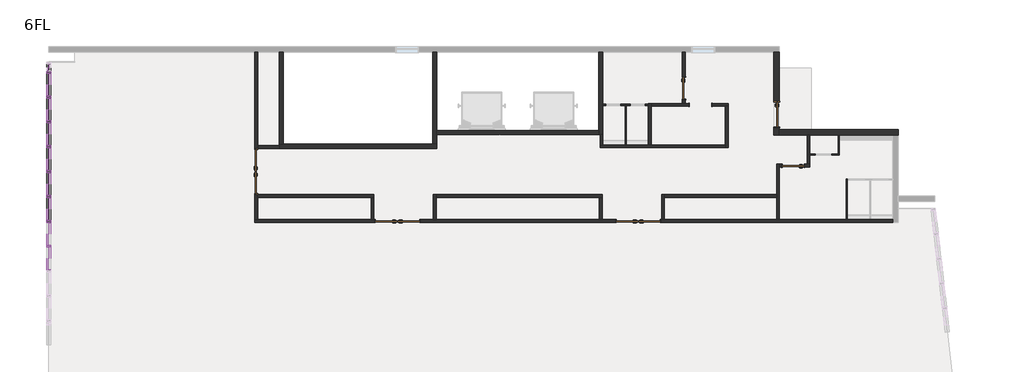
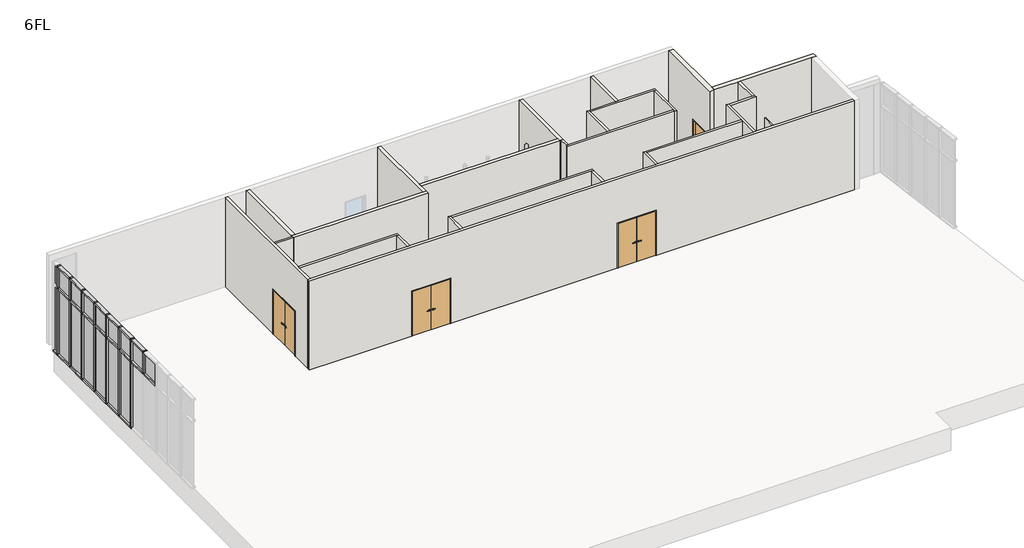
# One storey, part 3 of 4: 37 members, 31 walls, 16 plates, 7 doors.
"""IFC4 building model written with IfcOpenShell, lengths in millimetres."""

from ifc_helpers import new_model, si_unit, frame, origin, place, context, project, spatial, polyline, outline, extrude, faceted_brep, transform, mapped, element, save
from components import door_1de376c6, w800h2000_3f366617, w800h2000_fc627520, w800h2000_d76b1b72, w900h2000_8d150256, member_70x150_cdd4dcf9, member_70x150_66cf63de, member_70x150_26475b18, member_70x150_ad4265bc, member_70x150_a15bb337, plate_28587fd3, plate_396bcf3c, plate_4066ba05, plate_ba683b9a

model = new_model("IFC4")

# Units and contexts
model_context = context("Model", 3, world=origin())
ifc_project = project(units=[si_unit("LENGTHUNIT", "METRE", prefix="MILLI")], contexts=[model_context])

# Site, building, storey
site = spatial("IfcSite", under=ifc_project)
building = spatial("IfcBuilding", under=site)
storey = spatial("IfcBuildingStorey", under=building, Name="6FL", Elevation=20600.0)

# Doors
placement = place(None, origin())
door_shape = door_1de376c6(model_context)
element("IfcDoor", 1, ObjectType="両開き戸 : 両開き：w1600h2000", at=placement, inside=storey, context=model_context, shape_type="MappedRepresentation", body=[
    mapped(door_shape, transform((-21845.9784025, 12245.6585069, 20600.0), x_axis=(0.0, 1.0, 0.0), y_axis=(-1.0, 0.0, 0.0), z_axis=(0.0, 0.0, 1.0))),
])
element("IfcDoor", 2, ObjectType="両開き戸 : 両開き：w1600h2000", at=placement, inside=storey, context=model_context, shape_type="MappedRepresentation", body=[
    mapped(door_shape, transform((-16754.4500107, 10449.6868987, 20600.0), x_axis=(-1.0, 0.0, 0.0), y_axis=(0.0, -1.0, 0.0), z_axis=(0.0, 0.0, 1.0))),
])
element("IfcDoor", 3, ObjectType="両開き戸 : 両開き：w1600h2000", at=placement, inside=storey, context=model_context, shape_type="MappedRepresentation", body=[
    mapped(door_shape, transform((-8054.4500107, 10449.6868987, 20600.0), x_axis=(-1.0, 0.0, 0.0), y_axis=(0.0, -1.0, 0.0), z_axis=(0.0, 0.0, 1.0))),
])
w800h2000_shape = w800h2000_3f366617(model_context)
element("IfcDoor", 4, ObjectType="片開き戸 : w800h2000", at=placement, inside=storey, context=model_context, shape_type="MappedRepresentation", body=[
    mapped(w800h2000_shape, transform((-2445.9784025, 12449.6868987, 20600.0), x_axis=(-1.0, 0.0, 0.0), y_axis=(0.0, -1.0, 0.0), z_axis=(0.0, 0.0, 1.0))),
])
w800h2000_2_shape = w800h2000_fc627520(model_context)
element("IfcDoor", 5, ObjectType="片開き戸 : w800h2000", at=placement, inside=storey, context=model_context, shape_type="MappedRepresentation", body=[
    mapped(w800h2000_2_shape, transform((-6395.9784025, 15249.6868987, 20600.0), x_axis=(0.0, -1.0, 0.0), y_axis=(1.0, 0.0, 0.0), z_axis=(0.0, 0.0, 1.0))),
])
w800h2000_3_shape = w800h2000_d76b1b72(model_context)
element("IfcDoor", 6, ObjectType="開口枠あり : w800h2000", at=placement, inside=storey, context=model_context, shape_type="MappedRepresentation", body=[
    mapped(w800h2000_3_shape, transform((-5795.9784025, 14649.6868987, 20600.0), x_axis=(-1.0, 0.0, 0.0), y_axis=(0.0, -1.0, 0.0), z_axis=(0.0, 0.0, 1.0))),
])
w900h2000_shape = w900h2000_8d150256(model_context)
element("IfcDoor", 7, ObjectType="片開き戸 : w900h2000", at=placement, inside=storey, context=model_context, shape_type="MappedRepresentation", body=[
    mapped(w900h2000_shape, transform((-3045.9784025, 14299.6868987, 20600.0), x_axis=(0.0, -1.0, 0.0), y_axis=(1.0, 0.0, 0.0), z_axis=(0.0, 0.0, 1.0))),
])

# Members
member_70x150_shape = member_70x150_cdd4dcf9(model_context)
element("IfcMember", 8, ObjectType="長方形のマリオン : 70x150", at=placement, inside=storey, context=model_context, shape_type="MappedRepresentation", body=[
    mapped(member_70x150_shape, transform((-29345.9784025, 15834.6868987, 20600.0), x_axis=(0.0, 1.0, 0.0), y_axis=(1.0, 0.0, 0.0), z_axis=(0.0, 0.0, -1.0))),
])
element("IfcMember", 9, ObjectType="長方形のマリオン : 70x150", at=placement, inside=storey, context=model_context, shape_type="MappedRepresentation", body=[
    mapped(member_70x150_shape, transform((-29345.9784025, 14934.6868987, 20600.0), x_axis=(0.0, 1.0, 0.0), y_axis=(1.0, 0.0, 0.0), z_axis=(0.0, 0.0, -1.0))),
])
element("IfcMember", 10, ObjectType="長方形のマリオン : 70x150", at=placement, inside=storey, context=model_context, shape_type="MappedRepresentation", body=[
    mapped(member_70x150_shape, transform((-29345.9784025, 14034.6868987, 20600.0), x_axis=(0.0, 1.0, 0.0), y_axis=(1.0, 0.0, 0.0), z_axis=(0.0, 0.0, -1.0))),
])
element("IfcMember", 11, ObjectType="長方形のマリオン : 70x150", at=placement, inside=storey, context=model_context, shape_type="MappedRepresentation", body=[
    mapped(member_70x150_shape, transform((-29345.9784025, 13134.6868987, 20600.0), x_axis=(0.0, 1.0, 0.0), y_axis=(1.0, 0.0, 0.0), z_axis=(0.0, 0.0, -1.0))),
])
element("IfcMember", 12, ObjectType="長方形のマリオン : 70x150", at=placement, inside=storey, context=model_context, shape_type="MappedRepresentation", body=[
    mapped(member_70x150_shape, transform((-29345.9784025, 12234.6868987, 20600.0), x_axis=(0.0, 1.0, 0.0), y_axis=(1.0, 0.0, 0.0), z_axis=(0.0, 0.0, -1.0))),
])
element("IfcMember", 13, ObjectType="長方形のマリオン : 70x150", at=placement, inside=storey, context=model_context, shape_type="MappedRepresentation", body=[
    mapped(member_70x150_shape, transform((-29345.9784025, 11334.6868987, 20600.0), x_axis=(0.0, 1.0, 0.0), y_axis=(1.0, 0.0, 0.0), z_axis=(0.0, 0.0, -1.0))),
])
element("IfcMember", 14, ObjectType="長方形のマリオン : 70x150", at=placement, inside=storey, context=model_context, shape_type="MappedRepresentation", body=[
    mapped(member_70x150_shape, transform((-29345.9784025, 10434.6868987, 20600.0), x_axis=(0.0, 1.0, 0.0), y_axis=(1.0, 0.0, 0.0), z_axis=(0.0, 0.0, -1.0))),
])
member_70x150_2_shape = member_70x150_66cf63de(model_context)
element("IfcMember", 15, ObjectType="長方形のマリオン : 70x150", at=placement, inside=storey, context=model_context, shape_type="MappedRepresentation", body=[
    mapped(member_70x150_2_shape, transform((-29345.9784025, 14969.6868987, 20600.0), x_axis=(0.0, 0.0, -1.0), y_axis=(1.0, 0.0, 0.0), z_axis=(0.0, -1.0, 0.0))),
])
element("IfcMember", 16, ObjectType="長方形のマリオン : 70x150", at=placement, inside=storey, context=model_context, shape_type="MappedRepresentation", body=[
    mapped(member_70x150_2_shape, transform((-29345.9784025, 14069.6868987, 20600.0), x_axis=(0.0, 0.0, -1.0), y_axis=(1.0, 0.0, 0.0), z_axis=(0.0, -1.0, 0.0))),
])
element("IfcMember", 17, ObjectType="長方形のマリオン : 70x150", at=placement, inside=storey, context=model_context, shape_type="MappedRepresentation", body=[
    mapped(member_70x150_2_shape, transform((-29345.9784025, 13169.6868987, 20600.0), x_axis=(0.0, 0.0, -1.0), y_axis=(1.0, 0.0, 0.0), z_axis=(0.0, -1.0, 0.0))),
])
element("IfcMember", 18, ObjectType="長方形のマリオン : 70x150", at=placement, inside=storey, context=model_context, shape_type="MappedRepresentation", body=[
    mapped(member_70x150_2_shape, transform((-29345.9784025, 12269.6868987, 20600.0), x_axis=(0.0, 0.0, -1.0), y_axis=(1.0, 0.0, 0.0), z_axis=(0.0, -1.0, 0.0))),
])
element("IfcMember", 19, ObjectType="長方形のマリオン : 70x150", at=placement, inside=storey, context=model_context, shape_type="MappedRepresentation", body=[
    mapped(member_70x150_2_shape, transform((-29345.9784025, 11369.6868987, 20600.0), x_axis=(0.0, 0.0, -1.0), y_axis=(1.0, 0.0, 0.0), z_axis=(0.0, -1.0, 0.0))),
])
element("IfcMember", 20, ObjectType="長方形のマリオン : 70x150", at=placement, inside=storey, context=model_context, shape_type="MappedRepresentation", body=[
    mapped(member_70x150_2_shape, transform((-29345.9784025, 10469.6868987, 20600.0), x_axis=(0.0, 0.0, -1.0), y_axis=(1.0, 0.0, 0.0), z_axis=(0.0, -1.0, 0.0))),
])
element("IfcMember", 21, ObjectType="長方形のマリオン : 70x150", at=placement, inside=storey, context=model_context, shape_type="MappedRepresentation", body=[
    mapped(member_70x150_2_shape, transform((-29345.9784025, 15799.6868987, 24600.0), x_axis=(0.0, 0.0, 1.0), y_axis=(1.0, 0.0, 0.0), z_axis=(0.0, 1.0, 0.0))),
])
element("IfcMember", 22, ObjectType="長方形のマリオン : 70x150", at=placement, inside=storey, context=model_context, shape_type="MappedRepresentation", body=[
    mapped(member_70x150_2_shape, transform((-29345.9784025, 14899.6868987, 24600.0), x_axis=(0.0, 0.0, 1.0), y_axis=(1.0, 0.0, 0.0), z_axis=(0.0, 1.0, 0.0))),
])
element("IfcMember", 23, ObjectType="長方形のマリオン : 70x150", at=placement, inside=storey, context=model_context, shape_type="MappedRepresentation", body=[
    mapped(member_70x150_2_shape, transform((-29345.9784025, 13999.6868987, 24600.0), x_axis=(0.0, 0.0, 1.0), y_axis=(1.0, 0.0, 0.0), z_axis=(0.0, 1.0, 0.0))),
])
element("IfcMember", 24, ObjectType="長方形のマリオン : 70x150", at=placement, inside=storey, context=model_context, shape_type="MappedRepresentation", body=[
    mapped(member_70x150_2_shape, transform((-29345.9784025, 13099.6868987, 24600.0), x_axis=(0.0, 0.0, 1.0), y_axis=(1.0, 0.0, 0.0), z_axis=(0.0, 1.0, 0.0))),
])
element("IfcMember", 25, ObjectType="長方形のマリオン : 70x150", at=placement, inside=storey, context=model_context, shape_type="MappedRepresentation", body=[
    mapped(member_70x150_2_shape, transform((-29345.9784025, 12199.6868987, 24600.0), x_axis=(0.0, 0.0, 1.0), y_axis=(1.0, 0.0, 0.0), z_axis=(0.0, 1.0, 0.0))),
])
element("IfcMember", 26, ObjectType="長方形のマリオン : 70x150", at=placement, inside=storey, context=model_context, shape_type="MappedRepresentation", body=[
    mapped(member_70x150_2_shape, transform((-29345.9784025, 11299.6868987, 24600.0), x_axis=(0.0, 0.0, 1.0), y_axis=(1.0, 0.0, 0.0), z_axis=(0.0, 1.0, 0.0))),
])
element("IfcMember", 27, ObjectType="長方形のマリオン : 70x150", at=placement, inside=storey, context=model_context, shape_type="MappedRepresentation", body=[
    mapped(member_70x150_2_shape, transform((-29345.9784025, 10399.6868987, 24600.0), x_axis=(0.0, 0.0, 1.0), y_axis=(1.0, 0.0, 0.0), z_axis=(0.0, 1.0, 0.0))),
])
member_70x150_3_shape = member_70x150_26475b18(model_context)
element("IfcMember", 28, ObjectType="長方形のマリオン : 70x150", at=placement, inside=storey, context=model_context, shape_type="MappedRepresentation", body=[
    mapped(member_70x150_3_shape, transform((-29345.9784025, 15834.6868987, 23600.0), x_axis=(0.0, 1.0, 0.0), y_axis=(1.0, 0.0, 0.0), z_axis=(0.0, 0.0, -1.0))),
])
element("IfcMember", 29, ObjectType="長方形のマリオン : 70x150", at=placement, inside=storey, context=model_context, shape_type="MappedRepresentation", body=[
    mapped(member_70x150_3_shape, transform((-29345.9784025, 14934.6868987, 23600.0), x_axis=(0.0, 1.0, 0.0), y_axis=(1.0, 0.0, 0.0), z_axis=(0.0, 0.0, -1.0))),
])
element("IfcMember", 30, ObjectType="長方形のマリオン : 70x150", at=placement, inside=storey, context=model_context, shape_type="MappedRepresentation", body=[
    mapped(member_70x150_3_shape, transform((-29345.9784025, 14034.6868987, 23600.0), x_axis=(0.0, 1.0, 0.0), y_axis=(1.0, 0.0, 0.0), z_axis=(0.0, 0.0, -1.0))),
])
element("IfcMember", 31, ObjectType="長方形のマリオン : 70x150", at=placement, inside=storey, context=model_context, shape_type="MappedRepresentation", body=[
    mapped(member_70x150_3_shape, transform((-29345.9784025, 13134.6868987, 23600.0), x_axis=(0.0, 1.0, 0.0), y_axis=(1.0, 0.0, 0.0), z_axis=(0.0, 0.0, -1.0))),
])
element("IfcMember", 32, ObjectType="長方形のマリオン : 70x150", at=placement, inside=storey, context=model_context, shape_type="MappedRepresentation", body=[
    mapped(member_70x150_3_shape, transform((-29345.9784025, 12234.6868987, 23600.0), x_axis=(0.0, 1.0, 0.0), y_axis=(1.0, 0.0, 0.0), z_axis=(0.0, 0.0, -1.0))),
])
element("IfcMember", 33, ObjectType="長方形のマリオン : 70x150", at=placement, inside=storey, context=model_context, shape_type="MappedRepresentation", body=[
    mapped(member_70x150_3_shape, transform((-29345.9784025, 11334.6868987, 23600.0), x_axis=(0.0, 1.0, 0.0), y_axis=(1.0, 0.0, 0.0), z_axis=(0.0, 0.0, -1.0))),
])
element("IfcMember", 34, ObjectType="長方形のマリオン : 70x150", at=placement, inside=storey, context=model_context, shape_type="MappedRepresentation", body=[
    mapped(member_70x150_3_shape, transform((-29345.9784025, 10434.6868987, 23600.0), x_axis=(0.0, 1.0, 0.0), y_axis=(1.0, 0.0, 0.0), z_axis=(0.0, 0.0, -1.0))),
])
element("IfcMember", 35, ObjectType="長方形のマリオン : 70x150", at=placement, inside=storey, context=model_context, shape_type="MappedRepresentation", body=[
    mapped(member_70x150_3_shape, transform((-29345.9784025, 9534.6868987, 23600.0), x_axis=(0.0, 1.0, 0.0), y_axis=(1.0, 0.0, 0.0), z_axis=(0.0, 0.0, -1.0))),
])
member_70x150_4_shape = member_70x150_ad4265bc(model_context)
element("IfcMember", 36, ObjectType="長方形のマリオン : 70x150", at=placement, inside=storey, context=model_context, shape_type="MappedRepresentation", body=[
    mapped(member_70x150_4_shape, transform((-29345.9784025, 12199.6868987, 23600.0), x_axis=(0.0, 0.0, 1.0), y_axis=(1.0, 0.0, 0.0), z_axis=(0.0, 1.0, 0.0))),
])
element("IfcMember", 37, ObjectType="長方形のマリオン : 70x150", at=placement, inside=storey, context=model_context, shape_type="MappedRepresentation", body=[
    mapped(member_70x150_4_shape, transform((-29345.9784025, 9499.6868987, 23600.0), x_axis=(0.0, 0.0, 1.0), y_axis=(1.0, 0.0, 0.0), z_axis=(0.0, 1.0, 0.0))),
])
element("IfcMember", 38, ObjectType="長方形のマリオン : 70x150", at=placement, inside=storey, context=model_context, shape_type="MappedRepresentation", body=[
    mapped(member_70x150_4_shape, transform((-29345.9784025, 10399.6868987, 23600.0), x_axis=(0.0, 0.0, 1.0), y_axis=(1.0, 0.0, 0.0), z_axis=(0.0, 1.0, 0.0))),
])
element("IfcMember", 39, ObjectType="長方形のマリオン : 70x150", at=placement, inside=storey, context=model_context, shape_type="MappedRepresentation", body=[
    mapped(member_70x150_4_shape, transform((-29345.9784025, 13099.6868987, 23600.0), x_axis=(0.0, 0.0, 1.0), y_axis=(1.0, 0.0, 0.0), z_axis=(0.0, 1.0, 0.0))),
])
element("IfcMember", 40, ObjectType="長方形のマリオン : 70x150", at=placement, inside=storey, context=model_context, shape_type="MappedRepresentation", body=[
    mapped(member_70x150_4_shape, transform((-29345.9784025, 13999.6868987, 23600.0), x_axis=(0.0, 0.0, 1.0), y_axis=(1.0, 0.0, 0.0), z_axis=(0.0, 1.0, 0.0))),
])
element("IfcMember", 41, ObjectType="長方形のマリオン : 70x150", at=placement, inside=storey, context=model_context, shape_type="MappedRepresentation", body=[
    mapped(member_70x150_4_shape, transform((-29345.9784025, 11299.6868987, 23600.0), x_axis=(0.0, 0.0, 1.0), y_axis=(1.0, 0.0, 0.0), z_axis=(0.0, 1.0, 0.0))),
])
element("IfcMember", 42, ObjectType="長方形のマリオン : 70x150", at=placement, inside=storey, context=model_context, shape_type="MappedRepresentation", body=[
    mapped(member_70x150_4_shape, transform((-29345.9784025, 15799.6868987, 23600.0), x_axis=(0.0, 0.0, 1.0), y_axis=(1.0, 0.0, 0.0), z_axis=(0.0, 1.0, 0.0))),
])
element("IfcMember", 43, ObjectType="長方形のマリオン : 70x150", at=placement, inside=storey, context=model_context, shape_type="MappedRepresentation", body=[
    mapped(member_70x150_4_shape, transform((-29345.9784025, 14899.6868987, 23600.0), x_axis=(0.0, 0.0, 1.0), y_axis=(1.0, 0.0, 0.0), z_axis=(0.0, 1.0, 0.0))),
])
member_70x150_5_shape = member_70x150_a15bb337(model_context)
element("IfcMember", 44, ObjectType="長方形のマリオン : 70x150", at=placement, inside=storey, context=model_context, shape_type="MappedRepresentation", body=[
    mapped(member_70x150_5_shape, transform((-29345.9784025, 15869.6868987, 20600.0), x_axis=(0.0, 0.0, -1.0), y_axis=(1.0, 0.0, 0.0), z_axis=(0.0, -1.0, 0.0))),
])

# Plates
plate_shape = plate_28587fd3(model_context)
element("IfcPlate", 45, ObjectType="システム パネル : 標準", at=placement, inside=storey, context=model_context, shape_type="MappedRepresentation", body=[
    mapped(plate_shape, transform((-29345.9784025, 10884.6868987, 20670.0), x_axis=(0.0, 1.0, 0.0), y_axis=(-1.0, 0.0, 0.0), z_axis=(0.0, 0.0, 1.0))),
])
element("IfcPlate", 46, ObjectType="システム パネル : 標準", at=placement, inside=storey, context=model_context, shape_type="MappedRepresentation", body=[
    mapped(plate_shape, transform((-29345.9784025, 11784.6868987, 20670.0), x_axis=(0.0, 1.0, 0.0), y_axis=(-1.0, 0.0, 0.0), z_axis=(0.0, 0.0, 1.0))),
])
element("IfcPlate", 47, ObjectType="システム パネル : 標準", at=placement, inside=storey, context=model_context, shape_type="MappedRepresentation", body=[
    mapped(plate_shape, transform((-29345.9784025, 12684.6868987, 20670.0), x_axis=(0.0, 1.0, 0.0), y_axis=(-1.0, 0.0, 0.0), z_axis=(0.0, 0.0, 1.0))),
])
element("IfcPlate", 48, ObjectType="システム パネル : 標準", at=placement, inside=storey, context=model_context, shape_type="MappedRepresentation", body=[
    mapped(plate_shape, transform((-29345.9784025, 13584.6868987, 20670.0), x_axis=(0.0, 1.0, 0.0), y_axis=(-1.0, 0.0, 0.0), z_axis=(0.0, 0.0, 1.0))),
])
element("IfcPlate", 49, ObjectType="システム パネル : 標準", at=placement, inside=storey, context=model_context, shape_type="MappedRepresentation", body=[
    mapped(plate_shape, transform((-29345.9784025, 14484.6868987, 20670.0), x_axis=(0.0, 1.0, 0.0), y_axis=(-1.0, 0.0, 0.0), z_axis=(0.0, 0.0, 1.0))),
])
element("IfcPlate", 50, ObjectType="システム パネル : 標準", at=placement, inside=storey, context=model_context, shape_type="MappedRepresentation", body=[
    mapped(plate_shape, transform((-29345.9784025, 15384.6868987, 20670.0), x_axis=(0.0, 1.0, 0.0), y_axis=(-1.0, 0.0, 0.0), z_axis=(0.0, 0.0, 1.0))),
])
plate_2_shape = plate_396bcf3c(model_context)
element("IfcPlate", 51, ObjectType="システム パネル : 標準", at=placement, inside=storey, context=model_context, shape_type="MappedRepresentation", body=[
    mapped(plate_2_shape, transform((-29345.9784025, 9084.6868987, 23635.0), x_axis=(0.0, 1.0, 0.0), y_axis=(-1.0, 0.0, 0.0), z_axis=(0.0, 0.0, 1.0))),
])
element("IfcPlate", 52, ObjectType="システム パネル : 標準", at=placement, inside=storey, context=model_context, shape_type="MappedRepresentation", body=[
    mapped(plate_2_shape, transform((-29345.9784025, 9984.6868987, 23635.0), x_axis=(0.0, 1.0, 0.0), y_axis=(-1.0, 0.0, 0.0), z_axis=(0.0, 0.0, 1.0))),
])
element("IfcPlate", 53, ObjectType="システム パネル : 標準", at=placement, inside=storey, context=model_context, shape_type="MappedRepresentation", body=[
    mapped(plate_2_shape, transform((-29345.9784025, 10884.6868987, 23635.0), x_axis=(0.0, 1.0, 0.0), y_axis=(-1.0, 0.0, 0.0), z_axis=(0.0, 0.0, 1.0))),
])
element("IfcPlate", 54, ObjectType="システム パネル : 標準", at=placement, inside=storey, context=model_context, shape_type="MappedRepresentation", body=[
    mapped(plate_2_shape, transform((-29345.9784025, 11784.6868987, 23635.0), x_axis=(0.0, 1.0, 0.0), y_axis=(-1.0, 0.0, 0.0), z_axis=(0.0, 0.0, 1.0))),
])
element("IfcPlate", 55, ObjectType="システム パネル : 標準", at=placement, inside=storey, context=model_context, shape_type="MappedRepresentation", body=[
    mapped(plate_2_shape, transform((-29345.9784025, 12684.6868987, 23635.0), x_axis=(0.0, 1.0, 0.0), y_axis=(-1.0, 0.0, 0.0), z_axis=(0.0, 0.0, 1.0))),
])
element("IfcPlate", 56, ObjectType="システム パネル : 標準", at=placement, inside=storey, context=model_context, shape_type="MappedRepresentation", body=[
    mapped(plate_2_shape, transform((-29345.9784025, 13584.6868987, 23635.0), x_axis=(0.0, 1.0, 0.0), y_axis=(-1.0, 0.0, 0.0), z_axis=(0.0, 0.0, 1.0))),
])
element("IfcPlate", 57, ObjectType="システム パネル : 標準", at=placement, inside=storey, context=model_context, shape_type="MappedRepresentation", body=[
    mapped(plate_2_shape, transform((-29345.9784025, 14484.6868987, 23635.0), x_axis=(0.0, 1.0, 0.0), y_axis=(-1.0, 0.0, 0.0), z_axis=(0.0, 0.0, 1.0))),
])
element("IfcPlate", 58, ObjectType="システム パネル : 標準", at=placement, inside=storey, context=model_context, shape_type="MappedRepresentation", body=[
    mapped(plate_2_shape, transform((-29345.9784025, 15384.6868987, 23635.0), x_axis=(0.0, 1.0, 0.0), y_axis=(-1.0, 0.0, 0.0), z_axis=(0.0, 0.0, 1.0))),
])
plate_3_shape = plate_4066ba05(model_context)
element("IfcPlate", 59, ObjectType="システム パネル : 標準", at=placement, inside=storey, context=model_context, shape_type="MappedRepresentation", body=[
    mapped(plate_3_shape, transform((-29345.9784025, 15999.6868987, 20670.0), x_axis=(0.0, 1.0, 0.0), y_axis=(-1.0, 0.0, 0.0), z_axis=(0.0, 0.0, 1.0))),
])
plate_4_shape = plate_ba683b9a(model_context)
element("IfcPlate", 60, ObjectType="システム パネル : 標準", at=placement, inside=storey, context=model_context, shape_type="MappedRepresentation", body=[
    mapped(plate_4_shape, transform((-29345.9784025, 15999.6868987, 23635.0), x_axis=(0.0, 1.0, 0.0), y_axis=(-1.0, 0.0, 0.0), z_axis=(0.0, 0.0, 1.0))),
])

# Walls
element("IfcWall", 61, ObjectType="標準200", at=placement, inside=storey, context=model_context, shape_type="Brep", body=[
    faceted_brep([(-3145.9784025, 16549.6868987, 20600.0), (-3145.9784025, 14774.6868987, 20600.0), (-3145.9784025, 14774.6868987, 22625.0), (-3145.9784025, 13824.6868987, 22625.0), (-3145.9784025, 13824.6868987, 20600.0), (-3145.9784025, 13549.6868987, 20600.0), (-3145.9784025, 13549.6868987, 24600.0), (-3145.9784025, 16549.6868987, 24600.0), (-2945.9784025, 14774.6868987, 22625.0), (-2945.9784025, 14774.6868987, 20600.0), (-2945.9784025, 16549.6868987, 20600.0), (-2945.9784025, 16549.6868987, 24600.0), (-2945.9784025, 13749.6868987, 24600.0), (-2945.9784025, 13549.6868987, 24600.0), (-2945.9784025, 13549.6868987, 20600.0), (-2945.9784025, 13749.6868987, 20600.0), (-2945.9784025, 13824.6868987, 20600.0), (-2945.9784025, 13824.6868987, 22625.0)], [[[0, 1, 2, 3, 4, 5, 6, 7]], [[8, 9, 10, 11, 12, 13, 14, 15, 16, 17]], [[10, 9, 1, 0]], [[16, 15, 14, 5, 4]], [[7, 6, 13, 12, 11]], [[0, 7, 11, 10]], [[6, 5, 14, 13]], [[4, 3, 17, 16]], [[2, 1, 9, 8]], [[3, 2, 8, 17]]]),
])
element("IfcWall", 62, ObjectType="標準200", at=placement, inside=storey, context=model_context, shape_type="Brep", body=[
    faceted_brep([(-2945.9784025, 13549.6868987, 20600.0), (-1945.9784025, 13549.6868987, 20600.0), (-1845.9784025, 13549.6868987, 20600.0), (-815.9784025, 13549.6868987, 20600.0), (-775.9784025, 13549.6868987, 20600.0), (1154.0215975, 13549.6868987, 20600.0), (1354.0215975, 13549.6868987, 20600.0), (1354.0215975, 13549.6868987, 24600.0), (1154.0215975, 13549.6868987, 24600.0), (-1845.9784025, 13549.6868987, 24600.0), (-1945.9784025, 13549.6868987, 24600.0), (-2945.9784025, 13549.6868987, 24600.0), (-2945.9784025, 13749.6868987, 20600.0), (-2945.9784025, 13749.6868987, 24600.0), (1354.0215975, 13749.6868987, 24600.0), (1354.0215975, 13749.6868987, 20600.0)], [[[0, 1, 2, 3, 4, 5, 6, 7, 8, 9, 10, 11]], [[12, 13, 14, 15]], [[6, 5, 4, 3, 2, 1, 0, 12, 15]], [[11, 10, 9, 8, 7, 14, 13]], [[0, 11, 13, 12]], [[7, 6, 15, 14]]]),
])
element("IfcWall", 63, ObjectType="標準150", at=placement, inside=storey, context=model_context, shape_type="Brep", body=[
    faceted_brep([(-9470.9784025, 16549.6868987, 20600.0), (-9470.9784025, 13724.6868987, 20600.0), (-9470.9784025, 13574.6868987, 20600.0), (-9470.9784025, 13574.6868987, 24600.0), (-9470.9784025, 13724.6868987, 24600.0), (-9470.9784025, 16549.6868987, 24600.0), (-9320.9784025, 16549.6868987, 20600.0), (-9320.9784025, 16549.6868987, 24600.0), (-9320.9784025, 13574.6868987, 24600.0), (-9320.9784025, 13574.6868987, 20600.0), (-9320.9784025, 14629.6868987, 20600.0), (-9320.9784025, 14669.6868987, 20600.0), (-9420.9784025, 13574.6868987, 20600.0), (-9420.9784025, 13574.6868987, 24600.0)], [[[0, 1, 2, 3, 4, 5]], [[6, 7, 8, 9, 10, 11]], [[2, 1, 0, 6, 11, 10, 9, 12]], [[5, 4, 3, 13, 8, 7]], [[0, 5, 7, 6]], [[3, 2, 12, 9, 8, 13]]]),
])
element("IfcWall", 64, ObjectType="標準150", at=placement, inside=storey, context=model_context, shape_type="SweptSolid", body=[
    extrude(outline(polyline([(-15320.9784025, 13724.6868987), (-9470.9784025, 13724.6868987), (-9470.9784025, 13574.6868987), (-15320.9784025, 13574.6868987), (-15320.9784025, 13724.6868987)])), frame((0.0, 0.0, 20600.0), z_axis=(0.0, 0.0, 1.0), x_axis=(1.0, 0.0, 0.0)), (0.0, 0.0, 1.0), 4000.0),
])
element("IfcWall", 65, ObjectType="標準150", at=placement, inside=storey, context=model_context, shape_type="Brep", body=[
    faceted_brep([(-15320.9784025, 13224.6868987, 20600.0), (-15320.9784025, 13574.6868987, 20600.0), (-15320.9784025, 13724.6868987, 20600.0), (-15320.9784025, 16549.6868987, 20600.0), (-15320.9784025, 16549.6868987, 24600.0), (-15320.9784025, 13724.6868987, 24600.0), (-15320.9784025, 13574.6868987, 24600.0), (-15320.9784025, 13224.6868987, 24600.0), (-15470.9784025, 13224.6868987, 20600.0), (-15470.9784025, 13224.6868987, 24600.0), (-15470.9784025, 16549.6868987, 24600.0), (-15470.9784025, 16549.6868987, 20600.0)], [[[0, 1, 2, 3, 4, 5, 6, 7]], [[8, 9, 10, 11]], [[3, 2, 1, 0, 8, 11]], [[7, 6, 5, 4, 10, 9]], [[4, 3, 11, 10]], [[0, 7, 9, 8]]]),
])
element("IfcWall", 66, ObjectType="標準150", at=placement, inside=storey, context=model_context, shape_type="Brep", body=[
    faceted_brep([(-15320.9784025, 13224.6868987, 20600.0), (-15470.9784025, 13224.6868987, 20600.0), (-20870.9784025, 13224.6868987, 20600.0), (-21020.9784025, 13224.6868987, 20600.0), (-21020.9784025, 13224.6868987, 24600.0), (-20870.9784025, 13224.6868987, 24600.0), (-15470.9784025, 13224.6868987, 24600.0), (-15320.9784025, 13224.6868987, 24600.0), (-15320.9784025, 13074.6868987, 20600.0), (-15320.9784025, 13074.6868987, 24600.0), (-21020.9784025, 13074.6868987, 24600.0), (-21020.9784025, 13074.6868987, 20600.0), (-21020.9784025, 13174.6868987, 20600.0), (-21020.9784025, 13174.6868987, 24600.0)], [[[0, 1, 2, 3, 4, 5, 6, 7]], [[8, 9, 10, 11]], [[3, 2, 1, 0, 8, 11, 12]], [[7, 6, 5, 4, 13, 10, 9]], [[4, 3, 12, 11, 10, 13]], [[0, 7, 9, 8]]]),
])
element("IfcWall", 67, ObjectType="標準150", at=placement, inside=storey, context=model_context, shape_type="SweptSolid", body=[
    extrude(outline(polyline([(-20870.9784025, 16549.6868987), (-20870.9784025, 13224.6868987), (-21020.9784025, 13224.6868987), (-21020.9784025, 16549.6868987), (-20870.9784025, 16549.6868987)])), frame((0.0, 0.0, 20600.0), z_axis=(0.0, 0.0, 1.0), x_axis=(1.0, 0.0, 0.0)), (0.0, 0.0, 1.0), 4000.0),
])
element("IfcWall", 68, ObjectType="標準100", at=placement, inside=storey, context=model_context, shape_type="Brep", body=[
    faceted_brep([(1154.0215975, 10499.6868987, 20600.0), (354.0215975, 10499.6868987, 20600.0), (314.0215975, 10499.6868987, 20600.0), (-485.9784025, 10499.6868987, 20600.0), (-525.9784025, 10499.6868987, 20600.0), (-2945.9784025, 10499.6868987, 20600.0), (-3045.9784025, 10499.6868987, 20600.0), (-7095.9784025, 10499.6868987, 20600.0), (-7195.9784025, 10499.6868987, 20600.0), (-7220.9784025, 10499.6868987, 20600.0), (-7220.9784025, 10499.6868987, 22625.0), (-8870.9784025, 10499.6868987, 22625.0), (-8870.9784025, 10499.6868987, 20600.0), (-9345.9784025, 10499.6868987, 20600.0), (-9445.9784025, 10499.6868987, 20600.0), (-15345.9784025, 10499.6868987, 20600.0), (-15445.9784025, 10499.6868987, 20600.0), (-15920.9784025, 10499.6868987, 20600.0), (-15920.9784025, 10499.6868987, 22625.0), (-17570.9784025, 10499.6868987, 22625.0), (-17570.9784025, 10499.6868987, 20600.0), (-17595.9784025, 10499.6868987, 20600.0), (-17695.9784025, 10499.6868987, 20600.0), (-21795.9784025, 10499.6868987, 20600.0), (-21895.9784025, 10499.6868987, 20600.0), (-21895.9784025, 10499.6868987, 24600.0), (-21795.9784025, 10499.6868987, 24600.0), (-17695.9784025, 10499.6868987, 24600.0), (-17595.9784025, 10499.6868987, 24600.0), (-15445.9784025, 10499.6868987, 24600.0), (-15345.9784025, 10499.6868987, 24600.0), (-9445.9784025, 10499.6868987, 24600.0), (-9345.9784025, 10499.6868987, 24600.0), (-7195.9784025, 10499.6868987, 24600.0), (-7095.9784025, 10499.6868987, 24600.0), (-3045.9784025, 10499.6868987, 24600.0), (-2945.9784025, 10499.6868987, 24600.0), (1154.0215975, 10499.6868987, 24600.0), (-7220.9784025, 10399.6868987, 22625.0), (-7220.9784025, 10399.6868987, 20600.0), (1154.0215975, 10399.6868987, 20600.0), (1154.0215975, 10399.6868987, 24600.0), (-21895.9784025, 10399.6868987, 24600.0), (-21895.9784025, 10399.6868987, 20600.0), (-17570.9784025, 10399.6868987, 20600.0), (-17570.9784025, 10399.6868987, 22625.0), (-15920.9784025, 10399.6868987, 22625.0), (-15920.9784025, 10399.6868987, 20600.0), (-8870.9784025, 10399.6868987, 20600.0), (-8870.9784025, 10399.6868987, 22625.0)], [[[0, 1, 2, 3, 4, 5, 6, 7, 8, 9, 10, 11, 12, 13, 14, 15, 16, 17, 18, 19, 20, 21, 22, 23, 24, 25, 26, 27, 28, 29, 30, 31, 32, 33, 34, 35, 36, 37]], [[38, 39, 40, 41, 42, 43, 44, 45, 46, 47, 48, 49]], [[44, 43, 24, 23, 22, 21, 20]], [[48, 47, 17, 16, 15, 14, 13, 12]], [[40, 39, 9, 8, 7, 6, 5, 4, 3, 2, 1, 0]], [[37, 36, 35, 34, 33, 32, 31, 30, 29, 28, 27, 26, 25, 42, 41]], [[25, 24, 43, 42]], [[0, 37, 41, 40]], [[20, 19, 45, 44]], [[18, 17, 47, 46]], [[19, 18, 46, 45]], [[12, 11, 49, 48]], [[10, 9, 39, 38]], [[11, 10, 38, 49]]]),
])
element("IfcWall", 69, ObjectType="標準100", at=placement, inside=storey, context=model_context, shape_type="Brep", body=[
    faceted_brep([(-21795.9784025, 10499.6868987, 20600.0), (-21795.9784025, 11299.6868987, 20600.0), (-21795.9784025, 11399.6868987, 20600.0), (-21795.9784025, 11412.1868987, 20600.0), (-21795.9784025, 11412.1868987, 22625.0), (-21795.9784025, 13062.1868987, 22625.0), (-21795.9784025, 13062.1868987, 20600.0), (-21795.9784025, 13074.6868987, 20600.0), (-21795.9784025, 13174.6868987, 20600.0), (-21795.9784025, 16549.6868987, 20600.0), (-21795.9784025, 16549.6868987, 24600.0), (-21795.9784025, 13174.6868987, 24600.0), (-21795.9784025, 13074.6868987, 24600.0), (-21795.9784025, 11399.6868987, 24600.0), (-21795.9784025, 11299.6868987, 24600.0), (-21795.9784025, 10499.6868987, 24600.0), (-21895.9784025, 11412.1868987, 22625.0), (-21895.9784025, 11412.1868987, 20600.0), (-21895.9784025, 10499.6868987, 20600.0), (-21895.9784025, 10499.6868987, 24600.0), (-21895.9784025, 16549.6868987, 24600.0), (-21895.9784025, 16549.6868987, 20600.0), (-21895.9784025, 13062.1868987, 20600.0), (-21895.9784025, 13062.1868987, 22625.0)], [[[0, 1, 2, 3, 4, 5, 6, 7, 8, 9, 10, 11, 12, 13, 14, 15]], [[16, 17, 18, 19, 20, 21, 22, 23]], [[22, 21, 9, 8, 7, 6]], [[18, 17, 3, 2, 1, 0]], [[15, 14, 13, 12, 11, 10, 20, 19]], [[0, 15, 19, 18]], [[10, 9, 21, 20]], [[6, 5, 23, 22]], [[4, 3, 17, 16]], [[5, 4, 16, 23]]]),
])
element("IfcWall", 70, ObjectType="標準100", at=placement, inside=storey, context=model_context, shape_type="Brep", body=[
    faceted_brep([(-2945.9784025, 10499.6868987, 20600.0), (-2945.9784025, 12399.6868987, 20600.0), (-2945.9784025, 12499.6868987, 20600.0), (-2945.9784025, 12499.6868987, 24600.0), (-2945.9784025, 12399.6868987, 24600.0), (-2945.9784025, 10499.6868987, 24600.0), (-3045.9784025, 10499.6868987, 20600.0), (-3045.9784025, 10499.6868987, 24600.0), (-3045.9784025, 11299.6868987, 24600.0), (-3045.9784025, 11399.6868987, 24600.0), (-3045.9784025, 12499.6868987, 24600.0), (-3045.9784025, 12499.6868987, 20600.0), (-3045.9784025, 11399.6868987, 20600.0), (-3045.9784025, 11299.6868987, 20600.0)], [[[0, 1, 2, 3, 4, 5]], [[6, 7, 8, 9, 10, 11, 12, 13]], [[2, 1, 0, 6, 13, 12, 11]], [[5, 4, 3, 10, 9, 8, 7]], [[0, 5, 7, 6]], [[3, 2, 11, 10]]]),
])
element("IfcWall", 71, ObjectType="標準100", at=placement, inside=storey, context=model_context, shape_type="Brep", body=[
    faceted_brep([(-7095.9784025, 10499.6868987, 20600.0), (-7095.9784025, 11299.6868987, 20600.0), (-7095.9784025, 11399.6868987, 20600.0), (-7095.9784025, 11399.6868987, 24600.0), (-7095.9784025, 11299.6868987, 24600.0), (-7095.9784025, 10499.6868987, 24600.0), (-7195.9784025, 10499.6868987, 20600.0), (-7195.9784025, 10499.6868987, 24600.0), (-7195.9784025, 11399.6868987, 24600.0), (-7195.9784025, 11399.6868987, 20600.0)], [[[0, 1, 2, 3, 4, 5]], [[6, 7, 8, 9]], [[2, 1, 0, 6, 9]], [[5, 4, 3, 8, 7]], [[0, 5, 7, 6]], [[3, 2, 9, 8]]]),
])
element("IfcWall", 72, ObjectType="標準100", at=placement, inside=storey, context=model_context, shape_type="SweptSolid", body=[
    extrude(outline(polyline([(-3045.9784025, 11299.6868987), (-7095.9784025, 11299.6868987), (-7095.9784025, 11399.6868987), (-3045.9784025, 11399.6868987), (-3045.9784025, 11299.6868987)])), frame((0.0, 0.0, 20600.0), z_axis=(0.0, 0.0, 1.0), x_axis=(1.0, 0.0, 0.0)), (0.0, 0.0, 1.0), 4000.0),
])
element("IfcWall", 73, ObjectType="標準100", at=placement, inside=storey, context=model_context, shape_type="Brep", body=[
    faceted_brep([(-15345.9784025, 10499.6868987, 20600.0), (-15345.9784025, 11299.6868987, 20600.0), (-15345.9784025, 11399.6868987, 20600.0), (-15345.9784025, 11399.6868987, 24600.0), (-15345.9784025, 11299.6868987, 24600.0), (-15345.9784025, 10499.6868987, 24600.0), (-15445.9784025, 10499.6868987, 20600.0), (-15445.9784025, 10499.6868987, 24600.0), (-15445.9784025, 11399.6868987, 24600.0), (-15445.9784025, 11399.6868987, 20600.0)], [[[0, 1, 2, 3, 4, 5]], [[6, 7, 8, 9]], [[2, 1, 0, 6, 9]], [[5, 4, 3, 8, 7]], [[0, 5, 7, 6]], [[3, 2, 9, 8]]]),
])
element("IfcWall", 74, ObjectType="標準100", at=placement, inside=storey, context=model_context, shape_type="Brep", body=[
    faceted_brep([(-15345.9784025, 11299.6868987, 20600.0), (-9445.9784025, 11299.6868987, 20600.0), (-9345.9784025, 11299.6868987, 20600.0), (-9345.9784025, 11299.6868987, 24600.0), (-9445.9784025, 11299.6868987, 24600.0), (-15345.9784025, 11299.6868987, 24600.0), (-15345.9784025, 11399.6868987, 20600.0), (-15345.9784025, 11399.6868987, 24600.0), (-9345.9784025, 11399.6868987, 24600.0), (-9345.9784025, 11399.6868987, 20600.0)], [[[0, 1, 2, 3, 4, 5]], [[6, 7, 8, 9]], [[2, 1, 0, 6, 9]], [[5, 4, 3, 8, 7]], [[0, 5, 7, 6]], [[3, 2, 9, 8]]]),
])
element("IfcWall", 75, ObjectType="標準100", at=placement, inside=storey, context=model_context, shape_type="SweptSolid", body=[
    extrude(outline(polyline([(-9445.9784025, 10499.6868987), (-9445.9784025, 11299.6868987), (-9345.9784025, 11299.6868987), (-9345.9784025, 10499.6868987), (-9445.9784025, 10499.6868987)])), frame((0.0, 0.0, 20600.0), z_axis=(0.0, 0.0, 1.0), x_axis=(1.0, 0.0, 0.0)), (0.0, 0.0, 1.0), 4000.0),
])
element("IfcWall", 76, ObjectType="標準100", at=placement, inside=storey, context=model_context, shape_type="Brep", body=[
    faceted_brep([(-21795.9784025, 11299.6868987, 20600.0), (-17695.9784025, 11299.6868987, 20600.0), (-17595.9784025, 11299.6868987, 20600.0), (-17595.9784025, 11299.6868987, 24600.0), (-17695.9784025, 11299.6868987, 24600.0), (-21795.9784025, 11299.6868987, 24600.0), (-21795.9784025, 11399.6868987, 20600.0), (-21795.9784025, 11399.6868987, 24600.0), (-17595.9784025, 11399.6868987, 24600.0), (-17595.9784025, 11399.6868987, 20600.0)], [[[0, 1, 2, 3, 4, 5]], [[6, 7, 8, 9]], [[2, 1, 0, 6, 9]], [[5, 4, 3, 8, 7]], [[0, 5, 7, 6]], [[3, 2, 9, 8]]]),
])
element("IfcWall", 77, ObjectType="標準100", at=placement, inside=storey, context=model_context, shape_type="SweptSolid", body=[
    extrude(outline(polyline([(-17695.9784025, 10499.6868987), (-17695.9784025, 11299.6868987), (-17595.9784025, 11299.6868987), (-17595.9784025, 10499.6868987), (-17695.9784025, 10499.6868987)])), frame((0.0, 0.0, 20600.0), z_axis=(0.0, 0.0, 1.0), x_axis=(1.0, 0.0, 0.0)), (0.0, 0.0, 1.0), 4000.0),
])
element("IfcWall", 78, ObjectType="標準100", at=placement, inside=storey, context=model_context, shape_type="SweptSolid", body=[
    extrude(outline(polyline([(-21020.9784025, 13074.6868987), (-21795.9784025, 13074.6868987), (-21795.9784025, 13174.6868987), (-21020.9784025, 13174.6868987), (-21020.9784025, 13074.6868987)])), frame((0.0, 0.0, 20600.0), z_axis=(0.0, 0.0, 1.0), x_axis=(1.0, 0.0, 0.0)), (0.0, 0.0, 1.0), 4000.0),
])
element("IfcWall", 79, ObjectType="標準100", at=placement, inside=storey, context=model_context, shape_type="SweptSolid", body=[
    extrude(outline(polyline([(16549.6868987, 20600.0), (15674.6868987, 20600.0), (15674.6868987, 22625.0), (14824.6868987, 22625.0), (14824.6868987, 20600.0), (14699.6868987, 20600.0), (14699.6868987, 24600.0), (16549.6868987, 24600.0), (16549.6868987, 20600.0)])), frame((-6445.9784025, 0.0, 0.0), z_axis=(1.0, 0.0, 0.0), x_axis=(0.0, 1.0, 0.0)), (0.0, 0.0, 1.0), 100.0),
])
element("IfcWall", 80, ObjectType="標準100", at=placement, inside=storey, context=model_context, shape_type="Brep", body=[
    faceted_brep([(-4895.9784025, 13199.6868987, 20600.0), (-7580.9784025, 13199.6868987, 20600.0), (-7680.9784025, 13199.6868987, 20600.0), (-8480.9784025, 13199.6868987, 20600.0), (-8520.9784025, 13199.6868987, 20600.0), (-9320.9784025, 13199.6868987, 20600.0), (-9420.9784025, 13199.6868987, 20600.0), (-9420.9784025, 13199.6868987, 24600.0), (-9320.9784025, 13199.6868987, 24600.0), (-7680.9784025, 13199.6868987, 24600.0), (-7580.9784025, 13199.6868987, 24600.0), (-4895.9784025, 13199.6868987, 24600.0), (-4895.9784025, 13099.6868987, 20600.0), (-4895.9784025, 13099.6868987, 24600.0), (-9420.9784025, 13099.6868987, 24600.0), (-9420.9784025, 13099.6868987, 20600.0)], [[[0, 1, 2, 3, 4, 5, 6, 7, 8, 9, 10, 11]], [[12, 13, 14, 15]], [[6, 5, 4, 3, 2, 1, 0, 12, 15]], [[11, 10, 9, 8, 7, 14, 13]], [[0, 11, 13, 12]], [[7, 6, 15, 14]]]),
])
element("IfcWall", 81, ObjectType="標準100", at=placement, inside=storey, context=model_context, shape_type="SweptSolid", body=[
    extrude(outline(polyline([(-9320.9784025, 13574.6868987), (-9320.9784025, 13199.6868987), (-9420.9784025, 13199.6868987), (-9420.9784025, 13574.6868987), (-9320.9784025, 13574.6868987)])), frame((0.0, 0.0, 20600.0), z_axis=(0.0, 0.0, 1.0), x_axis=(1.0, 0.0, 0.0)), (0.0, 0.0, 1.0), 4000.0),
])
element("IfcWall", 82, ObjectType="標準100", at=placement, inside=storey, context=model_context, shape_type="Brep", body=[
    faceted_brep([(-7580.9784025, 13199.6868987, 20600.0), (-7580.9784025, 14599.6868987, 20600.0), (-7580.9784025, 14699.6868987, 20600.0), (-7580.9784025, 14699.6868987, 24600.0), (-7580.9784025, 14599.6868987, 24600.0), (-7580.9784025, 13199.6868987, 24600.0), (-7680.9784025, 13199.6868987, 20600.0), (-7680.9784025, 13199.6868987, 24600.0), (-7680.9784025, 14699.6868987, 24600.0), (-7680.9784025, 14699.6868987, 20600.0), (-7680.9784025, 14669.6868987, 20600.0), (-7680.9784025, 14629.6868987, 20600.0)], [[[0, 1, 2, 3, 4, 5]], [[6, 7, 8, 9, 10, 11]], [[2, 1, 0, 6, 11, 10, 9]], [[5, 4, 3, 8, 7]], [[0, 5, 7, 6]], [[3, 2, 9, 8]]]),
])
element("IfcWall", 83, ObjectType="標準100", at=placement, inside=storey, context=model_context, shape_type="Brep", body=[
    faceted_brep([(-5370.9784025, 14599.6868987, 22625.0), (-5370.9784025, 14599.6868987, 20600.0), (-4895.9784025, 14599.6868987, 20600.0), (-4795.9784025, 14599.6868987, 20600.0), (-4795.9784025, 14599.6868987, 24600.0), (-4895.9784025, 14599.6868987, 24600.0), (-7580.9784025, 14599.6868987, 24600.0), (-7580.9784025, 14599.6868987, 20600.0), (-6220.9784025, 14599.6868987, 20600.0), (-6220.9784025, 14599.6868987, 22625.0), (-4795.9784025, 14699.6868987, 20600.0), (-5370.9784025, 14699.6868987, 20600.0), (-5370.9784025, 14699.6868987, 22625.0), (-6220.9784025, 14699.6868987, 22625.0), (-6220.9784025, 14699.6868987, 20600.0), (-6345.9784025, 14699.6868987, 20600.0), (-6445.9784025, 14699.6868987, 20600.0), (-7580.9784025, 14699.6868987, 20600.0), (-7580.9784025, 14699.6868987, 24600.0), (-6445.9784025, 14699.6868987, 24600.0), (-6345.9784025, 14699.6868987, 24600.0), (-4795.9784025, 14699.6868987, 24600.0)], [[[0, 1, 2, 3, 4, 5, 6, 7, 8, 9]], [[10, 11, 12, 13, 14, 15, 16, 17, 18, 19, 20, 21]], [[8, 7, 17, 16, 15, 14]], [[3, 2, 1, 11, 10]], [[6, 5, 4, 21, 20, 19, 18]], [[4, 3, 10, 21]], [[14, 13, 9, 8]], [[12, 11, 1, 0]], [[13, 12, 0, 9]], [[6, 18, 17, 7]]]),
])
element("IfcWall", 84, ObjectType="標準100", at=placement, inside=storey, context=model_context, shape_type="Brep", body=[
    faceted_brep([(-4895.9784025, 14599.6868987, 20600.0), (-4895.9784025, 13199.6868987, 20600.0), (-4895.9784025, 13099.6868987, 20600.0), (-4895.9784025, 13099.6868987, 24600.0), (-4895.9784025, 13199.6868987, 24600.0), (-4895.9784025, 14599.6868987, 24600.0), (-4795.9784025, 14599.6868987, 20600.0), (-4795.9784025, 14599.6868987, 24600.0), (-4795.9784025, 13099.6868987, 24600.0), (-4795.9784025, 13099.6868987, 20600.0)], [[[0, 1, 2, 3, 4, 5]], [[6, 7, 8, 9]], [[2, 1, 0, 6, 9]], [[5, 4, 3, 8, 7]], [[3, 2, 9, 8]], [[0, 5, 7, 6]]]),
])
element("IfcWall", 85, ObjectType="標準100", at=placement, inside=storey, context=model_context, shape_type="Brep", body=[
    faceted_brep([(-2020.9784025, 12399.6868987, 22625.0), (-2020.9784025, 12399.6868987, 20600.0), (-1845.9784025, 12399.6868987, 20600.0), (-1845.9784025, 12399.6868987, 24600.0), (-2945.9784025, 12399.6868987, 24600.0), (-2945.9784025, 12399.6868987, 20600.0), (-2870.9784025, 12399.6868987, 20600.0), (-2870.9784025, 12399.6868987, 22625.0), (-1845.9784025, 12499.6868987, 20600.0), (-1945.9784025, 12499.6868987, 20600.0), (-2020.9784025, 12499.6868987, 20600.0), (-2020.9784025, 12499.6868987, 22625.0), (-2870.9784025, 12499.6868987, 22625.0), (-2870.9784025, 12499.6868987, 20600.0), (-2945.9784025, 12499.6868987, 20600.0), (-2945.9784025, 12499.6868987, 24600.0), (-1945.9784025, 12499.6868987, 24600.0), (-1845.9784025, 12499.6868987, 24600.0)], [[[0, 1, 2, 3, 4, 5, 6, 7]], [[8, 9, 10, 11, 12, 13, 14, 15, 16, 17]], [[6, 5, 14, 13]], [[2, 1, 10, 9, 8]], [[4, 3, 17, 16, 15]], [[3, 2, 8, 17]], [[5, 4, 15, 14]], [[13, 12, 7, 6]], [[11, 10, 1, 0]], [[12, 11, 0, 7]]]),
])
element("IfcWall", 86, ObjectType="標準100", at=placement, inside=storey, context=model_context, shape_type="Brep", body=[
    faceted_brep([(-1845.9784025, 12499.6868987, 20600.0), (-1845.9784025, 12829.6868987, 20600.0), (-1845.9784025, 12869.6868987, 20600.0), (-1845.9784025, 13549.6868987, 20600.0), (-1845.9784025, 13549.6868987, 24600.0), (-1845.9784025, 12499.6868987, 24600.0), (-1945.9784025, 12499.6868987, 20600.0), (-1945.9784025, 12499.6868987, 24600.0), (-1945.9784025, 13549.6868987, 24600.0), (-1945.9784025, 13549.6868987, 20600.0)], [[[0, 1, 2, 3, 4, 5]], [[6, 7, 8, 9]], [[3, 2, 1, 0, 6, 9]], [[5, 4, 8, 7]], [[0, 5, 7, 6]], [[4, 3, 9, 8]]]),
])
element("IfcWall", 87, ObjectType="トイレブース 40", at=placement, inside=storey, context=model_context, shape_type="SweptSolid", body=[
    extrude(outline(polyline([(-8480.9784025, 14629.6868987), (-8480.9784025, 13199.6868987), (-8520.9784025, 13199.6868987), (-8520.9784025, 14629.6868987), (-8480.9784025, 14629.6868987)])), frame((0.0, 0.0, 20600.0), z_axis=(0.0, 0.0, 1.0), x_axis=(1.0, 0.0, 0.0)), (0.0, 0.0, 1.0), 2000.0),
])
element("IfcWall", 88, ObjectType="トイレブース 40", at=placement, inside=storey, context=model_context, shape_type="Brep", body=[
    faceted_brep([(-9320.9784025, 14629.6868987, 22600.0), (-9320.9784025, 14629.6868987, 20600.0), (-9223.4784025, 14629.6868987, 20600.0), (-9223.4784025, 14629.6868987, 22600.0), (-9320.9784025, 14669.6868987, 20600.0), (-9320.9784025, 14669.6868987, 22600.0), (-9223.4784025, 14669.6868987, 22600.0), (-9223.4784025, 14669.6868987, 20600.0)], [[[0, 1, 2, 3]], [[4, 5, 6, 7]], [[1, 4, 7, 2]], [[5, 0, 3, 6]], [[1, 0, 5, 4]], [[3, 2, 7, 6]]]),
    faceted_brep([(-7680.9784025, 14629.6868987, 20600.0), (-7680.9784025, 14629.6868987, 22600.0), (-7790.9784025, 14629.6868987, 22600.0), (-7790.9784025, 14629.6868987, 20600.0), (-7680.9784025, 14669.6868987, 22600.0), (-7680.9784025, 14669.6868987, 20600.0), (-7790.9784025, 14669.6868987, 20600.0), (-7790.9784025, 14669.6868987, 22600.0)], [[[0, 1, 2, 3]], [[4, 5, 6, 7]], [[5, 0, 3, 6]], [[1, 4, 7, 2]], [[1, 0, 5, 4]], [[3, 2, 7, 6]]]),
    faceted_brep([(-8673.4784025, 14629.6868987, 22600.0), (-8673.4784025, 14629.6868987, 20600.0), (-8520.9784025, 14629.6868987, 20600.0), (-8480.9784025, 14629.6868987, 20600.0), (-8340.9784025, 14629.6868987, 20600.0), (-8340.9784025, 14629.6868987, 22600.0), (-8480.9784025, 14629.6868987, 22600.0), (-8520.9784025, 14629.6868987, 22600.0), (-8673.4784025, 14669.6868987, 20600.0), (-8673.4784025, 14669.6868987, 22600.0), (-8340.9784025, 14669.6868987, 22600.0), (-8340.9784025, 14669.6868987, 20600.0)], [[[0, 1, 2, 3, 4, 5, 6, 7]], [[8, 9, 10, 11]], [[1, 8, 11, 4, 3, 2]], [[9, 0, 7, 6, 5, 10]], [[1, 0, 9, 8]], [[5, 4, 11, 10]]]),
])
element("IfcWall", 89, ObjectType="トイレブース 40", at=placement, inside=storey, context=model_context, shape_type="Brep", body=[
    faceted_brep([(-485.9784025, 10499.6868987, 20600.0), (-485.9784025, 11929.6868987, 20600.0), (-485.9784025, 11969.6868987, 20600.0), (-485.9784025, 11969.6868987, 22600.0), (-485.9784025, 11929.6868987, 22600.0), (-485.9784025, 10499.6868987, 22600.0), (-525.9784025, 10499.6868987, 20600.0), (-525.9784025, 10499.6868987, 22600.0), (-525.9784025, 11969.6868987, 22600.0), (-525.9784025, 11969.6868987, 20600.0)], [[[0, 1, 2, 3, 4, 5]], [[6, 7, 8, 9]], [[2, 1, 0, 6, 9]], [[5, 4, 3, 8, 7]], [[0, 5, 7, 6]], [[3, 2, 9, 8]]]),
])
element("IfcWall", 90, ObjectType="トイレブース 40", at=placement, inside=storey, context=model_context, shape_type="Brep", body=[
    faceted_brep([(-1845.9784025, 12829.6868987, 22600.0), (-1845.9784025, 12829.6868987, 20600.0), (-1645.9784025, 12829.6868987, 20600.0), (-1645.9784025, 12829.6868987, 22600.0), (-1845.9784025, 12869.6868987, 20600.0), (-1845.9784025, 12869.6868987, 22600.0), (-1645.9784025, 12869.6868987, 22600.0), (-1645.9784025, 12869.6868987, 20600.0)], [[[0, 1, 2, 3]], [[4, 5, 6, 7]], [[1, 4, 7, 2]], [[5, 0, 3, 6]], [[1, 0, 5, 4]], [[3, 2, 7, 6]]]),
    faceted_brep([(-775.9784025, 12829.6868987, 20600.0), (-775.9784025, 12829.6868987, 22600.0), (-1045.9784025, 12829.6868987, 22600.0), (-1045.9784025, 12829.6868987, 20600.0), (-775.9784025, 12869.6868987, 22600.0), (-775.9784025, 12869.6868987, 20600.0), (-815.9784025, 12869.6868987, 20600.0), (-1045.9784025, 12869.6868987, 20600.0), (-1045.9784025, 12869.6868987, 22600.0), (-815.9784025, 12869.6868987, 22600.0)], [[[0, 1, 2, 3]], [[4, 5, 6, 7, 8, 9]], [[5, 0, 3, 7, 6]], [[1, 4, 9, 8, 2]], [[1, 0, 5, 4]], [[3, 2, 8, 7]]]),
])
element("IfcWall", 91, ObjectType="トイレブース 40", at=placement, inside=storey, context=model_context, shape_type="SweptSolid", body=[
    extrude(outline(polyline([(-775.9784025, 13549.6868987), (-775.9784025, 12869.6868987), (-815.9784025, 12869.6868987), (-815.9784025, 13549.6868987), (-775.9784025, 13549.6868987)])), frame((0.0, 0.0, 20600.0), z_axis=(0.0, 0.0, 1.0), x_axis=(1.0, 0.0, 0.0)), (0.0, 0.0, 1.0), 2000.0),
])

save(model, "model.ifc")
